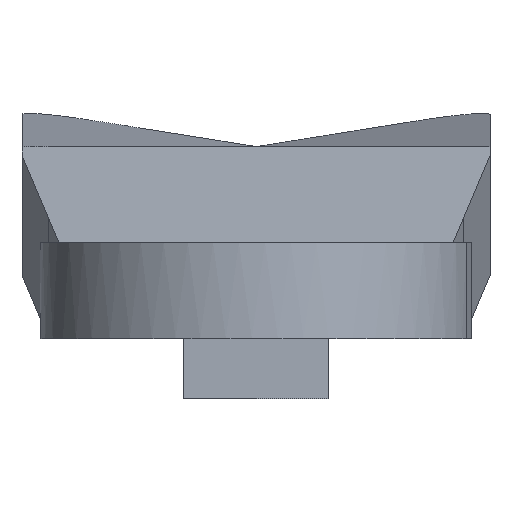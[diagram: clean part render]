
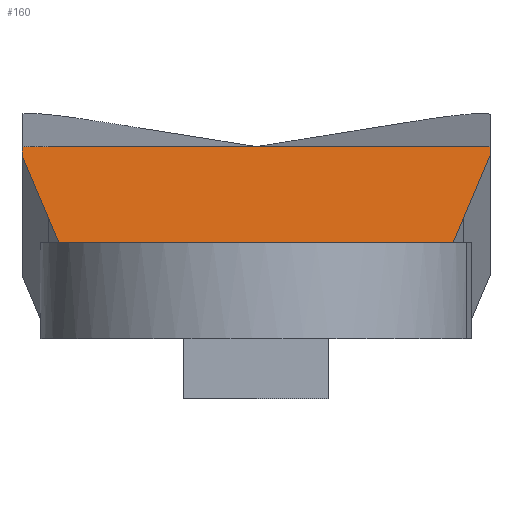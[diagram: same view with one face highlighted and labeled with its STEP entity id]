
A CAD part, left-side view. The second image highlights one B-rep face of the part: STEP entity #160.
In plain terms, the highlighted planar face has unit normal (-0.414, 0, 0.91).
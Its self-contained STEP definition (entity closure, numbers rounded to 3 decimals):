
#2 = ORIENTED_EDGE ( 'NONE', *, *, #886, .T. ) ;
#8 = CARTESIAN_POINT ( 'NONE',  ( 15.712, 8.637, 5.007 ) ) ;
#19 = CARTESIAN_POINT ( 'NONE',  ( 19.571, 9.379, 6.763 ) ) ;
#20 = B_SPLINE_CURVE_WITH_KNOTS ( 'NONE', 3,
 ( #63, #333, #50, #616 ),
 .UNSPECIFIED., .F., .F.,
 ( 4, 4 ),
 ( 0., 1. ),
 .UNSPECIFIED. ) ;
#47 = VERTEX_POINT ( 'NONE', #472 ) ;
#50 = CARTESIAN_POINT ( 'NONE',  ( 22.288, 3.25, 8. ) ) ;
#63 = CARTESIAN_POINT ( 'NONE',  ( 22.288, -9.75, 8. ) ) ;
#97 = CARTESIAN_POINT ( 'NONE',  ( 13.5, 8.212, 4. ) ) ;
#103 = AXIS2_PLACEMENT_3D ( 'NONE', #881, #540, #1165 ) ;
#108 = ORIENTED_EDGE ( 'NONE', *, *, #1072, .F. ) ;
#132 = CARTESIAN_POINT ( 'NONE',  ( 15.712, -8.637, 5.007 ) ) ;
#160 = ADVANCED_FACE ( 'NONE', ( #719 ), #980, .T. ) ;
#176 = CARTESIAN_POINT ( 'NONE',  ( 22.288, 9.75, 8. ) ) ;
#178 = CARTESIAN_POINT ( 'NONE',  ( 13.5, 8.212, 4. ) ) ;
#215 = EDGE_CURVE ( 'NONE', #47, #1103, #20, .T. ) ;
#219 = CARTESIAN_POINT ( 'NONE',  ( 17.641, 9.008, 5.885 ) ) ;
#230 = B_SPLINE_CURVE_WITH_KNOTS ( 'NONE', 3,
 ( #299, #847, #493, #946 ),
 .UNSPECIFIED., .F., .F.,
 ( 4, 4 ),
 ( 0., 1. ),
 .UNSPECIFIED. ) ;
#247 = EDGE_CURVE ( 'NONE', #983, #810, #1048, .T. ) ;
#258 = EDGE_LOOP ( 'NONE', ( #1137, #400, #611, #824, #336, #2, #988, #108 ) ) ;
#262 = CARTESIAN_POINT ( 'NONE',  ( 22.025, 9.75, 7.88 ) ) ;
#279 = CARTESIAN_POINT ( 'NONE',  ( 21.5, -9.75, 7.641 ) ) ;
#288 = CARTESIAN_POINT ( 'NONE',  ( 22.288, 9.75, 8. ) ) ;
#299 = CARTESIAN_POINT ( 'NONE',  ( 13.5, 8.212, 4. ) ) ;
#306 = CARTESIAN_POINT ( 'NONE',  ( 14.237, -8.353, 4.336 ) ) ;
#333 = CARTESIAN_POINT ( 'NONE',  ( 22.288, -3.25, 8. ) ) ;
#336 = ORIENTED_EDGE ( 'NONE', *, *, #477, .T. ) ;
#366 = EDGE_CURVE ( 'NONE', #483, #792, #230, .T. ) ;
#377 = CARTESIAN_POINT ( 'NONE',  ( 15.712, -8.637, 5.007 ) ) ;
#384 = VERTEX_POINT ( 'NONE', #387 ) ;
#387 = CARTESIAN_POINT ( 'NONE',  ( 21.5, 9.75, 7.641 ) ) ;
#400 = ORIENTED_EDGE ( 'NONE', *, *, #1065, .T. ) ;
#472 = CARTESIAN_POINT ( 'NONE',  ( 22.288, -9.75, 8. ) ) ;
#477 = EDGE_CURVE ( 'NONE', #1103, #384, #644, .T. ) ;
#483 = VERTEX_POINT ( 'NONE', #178 ) ;
#493 = CARTESIAN_POINT ( 'NONE',  ( 14.975, 8.495, 4.671 ) ) ;
#494 = B_SPLINE_CURVE_WITH_KNOTS ( 'NONE', 3,
 ( #755, #1117, #660, #583 ),
 .UNSPECIFIED., .F., .F.,
 ( 4, 4 ),
 ( 0., 1. ),
 .UNSPECIFIED. ) ;
#501 = CARTESIAN_POINT ( 'NONE',  ( 21.5, 9.75, 7.641 ) ) ;
#540 = DIRECTION ( 'NONE',  ( -0.414, 0., 0.91 ) ) ;
#566 = CARTESIAN_POINT ( 'NONE',  ( 13.5, -8.212, 4. ) ) ;
#583 = CARTESIAN_POINT ( 'NONE',  ( 22.288, -9.75, 8. ) ) ;
#591 = B_SPLINE_CURVE_WITH_KNOTS ( 'NONE', 3,
 ( #934, #1018, #827, #279 ),
 .UNSPECIFIED., .F., .F.,
 ( 4, 4 ),
 ( 0., 1. ),
 .UNSPECIFIED. ) ;
#611 = ORIENTED_EDGE ( 'NONE', *, *, #821, .T. ) ;
#616 = CARTESIAN_POINT ( 'NONE',  ( 22.288, 9.75, 8. ) ) ;
#644 = B_SPLINE_CURVE_WITH_KNOTS ( 'NONE', 3,
 ( #288, #262, #647, #995 ),
 .UNSPECIFIED., .F., .F.,
 ( 4, 4 ),
 ( 0., 1. ),
 .UNSPECIFIED. ) ;
#646 = CARTESIAN_POINT ( 'NONE',  ( 13.5, -8.212, 4. ) ) ;
#647 = CARTESIAN_POINT ( 'NONE',  ( 21.763, 9.75, 7.761 ) ) ;
#660 = CARTESIAN_POINT ( 'NONE',  ( 22.025, -9.75, 7.88 ) ) ;
#719 = FACE_OUTER_BOUND ( 'NONE', #258, .T. ) ;
#755 = CARTESIAN_POINT ( 'NONE',  ( 21.5, -9.75, 7.641 ) ) ;
#764 = CARTESIAN_POINT ( 'NONE',  ( 14.975, -8.495, 4.671 ) ) ;
#771 = CARTESIAN_POINT ( 'NONE',  ( 15.712, 8.637, 5.007 ) ) ;
#792 = VERTEX_POINT ( 'NONE', #8 ) ;
#810 = VERTEX_POINT ( 'NONE', #1104 ) ;
#821 = EDGE_CURVE ( 'NONE', #1156, #47, #494, .T. ) ;
#824 = ORIENTED_EDGE ( 'NONE', *, *, #215, .T. ) ;
#827 = CARTESIAN_POINT ( 'NONE',  ( 19.571, -9.379, 6.763 ) ) ;
#847 = CARTESIAN_POINT ( 'NONE',  ( 14.237, 8.353, 4.336 ) ) ;
#881 = CARTESIAN_POINT ( 'NONE',  ( 17.894, 15., 6. ) ) ;
#886 = EDGE_CURVE ( 'NONE', #384, #792, #1120, .T. ) ;
#934 = CARTESIAN_POINT ( 'NONE',  ( 15.712, -8.637, 5.007 ) ) ;
#942 = CARTESIAN_POINT ( 'NONE',  ( 21.5, -9.75, 7.641 ) ) ;
#946 = CARTESIAN_POINT ( 'NONE',  ( 15.712, 8.637, 5.007 ) ) ;
#980 = PLANE ( 'NONE',  #103 ) ;
#983 = VERTEX_POINT ( 'NONE', #132 ) ;
#988 = ORIENTED_EDGE ( 'NONE', *, *, #366, .F. ) ;
#995 = CARTESIAN_POINT ( 'NONE',  ( 21.5, 9.75, 7.641 ) ) ;
#1018 = CARTESIAN_POINT ( 'NONE',  ( 17.641, -9.008, 5.885 ) ) ;
#1048 = B_SPLINE_CURVE_WITH_KNOTS ( 'NONE', 3,
 ( #377, #764, #306, #566 ),
 .UNSPECIFIED., .F., .F.,
 ( 4, 4 ),
 ( 0., 1. ),
 .UNSPECIFIED. ) ;
#1065 = EDGE_CURVE ( 'NONE', #983, #1156, #591, .T. ) ;
#1072 = EDGE_CURVE ( 'NONE', #810, #483, #1093, .T. ) ;
#1093 = B_SPLINE_CURVE_WITH_KNOTS ( 'NONE', 3,
 ( #646, #1108, #1094, #97 ),
 .UNSPECIFIED., .F., .F.,
 ( 4, 4 ),
 ( 0., 1. ),
 .UNSPECIFIED. ) ;
#1094 = CARTESIAN_POINT ( 'NONE',  ( 13.5, 2.737, 4. ) ) ;
#1103 = VERTEX_POINT ( 'NONE', #176 ) ;
#1104 = CARTESIAN_POINT ( 'NONE',  ( 13.5, -8.212, 4. ) ) ;
#1108 = CARTESIAN_POINT ( 'NONE',  ( 13.5, -2.737, 4. ) ) ;
#1117 = CARTESIAN_POINT ( 'NONE',  ( 21.763, -9.75, 7.761 ) ) ;
#1120 = B_SPLINE_CURVE_WITH_KNOTS ( 'NONE', 3,
 ( #501, #19, #219, #771 ),
 .UNSPECIFIED., .F., .F.,
 ( 4, 4 ),
 ( 0., 1. ),
 .UNSPECIFIED. ) ;
#1137 = ORIENTED_EDGE ( 'NONE', *, *, #247, .F. ) ;
#1156 = VERTEX_POINT ( 'NONE', #942 ) ;
#1165 = DIRECTION ( 'NONE',  ( 0., 1., 0. ) ) ;
